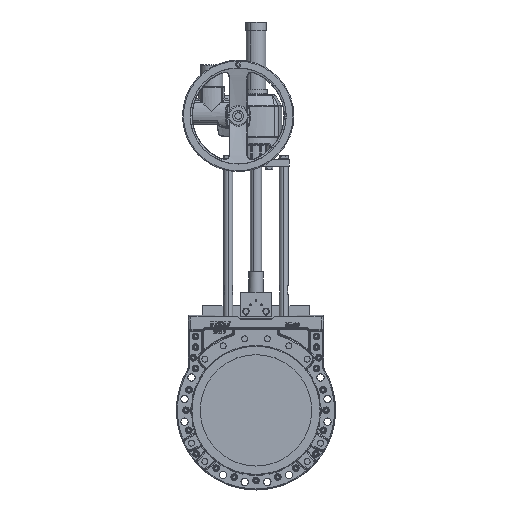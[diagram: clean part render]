
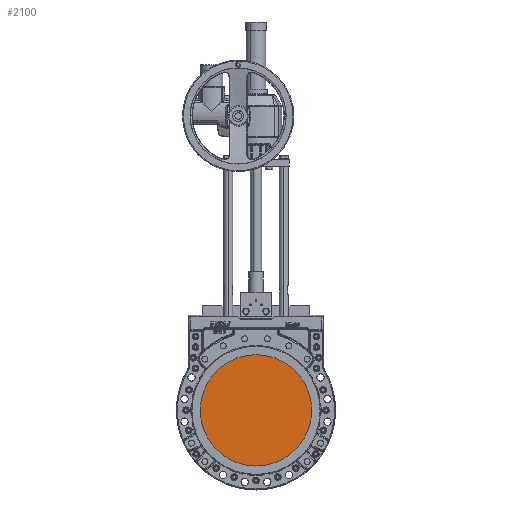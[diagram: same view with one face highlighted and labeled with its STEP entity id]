
A CAD part, top view. The second image highlights one B-rep face of the part: STEP entity #2100.
In plain terms, the highlighted planar face has unit normal (0, 0, 1).
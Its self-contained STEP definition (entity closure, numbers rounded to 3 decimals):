
#2100 = ADVANCED_FACE ( 'NONE', ( #59063 ), #28945, .T. ) ;
#4861 = AXIS2_PLACEMENT_3D ( 'NONE', #125377, #30617, #141259 ) ;
#24273 = EDGE_LOOP ( 'NONE', ( #34265, #127747 ) ) ;
#26848 = CARTESIAN_POINT ( 'NONE',  ( 0., 0., -0.25 ) ) ;
#26975 = AXIS2_PLACEMENT_3D ( 'NONE', #127379, #32605, #143257 ) ;
#28945 = PLANE ( 'NONE',  #183273 ) ;
#30617 = DIRECTION ( 'NONE',  ( 0., 0., 1. ) ) ;
#32605 = DIRECTION ( 'NONE',  ( 0., 0., 1. ) ) ;
#34265 = ORIENTED_EDGE ( 'NONE', *, *, #84263, .T. ) ;
#44808 = DIRECTION ( 'NONE',  ( 1., 0., 0. ) ) ;
#59063 = FACE_OUTER_BOUND ( 'NONE', #24273, .T. ) ;
#70967 = VERTEX_POINT ( 'NONE', #198817 ) ;
#84263 = EDGE_CURVE ( 'NONE', #70967, #124855, #85774, .T. ) ;
#85774 = CIRCLE ( 'NONE', #26975, 250. ) ;
#103638 = CIRCLE ( 'NONE', #4861, 250. ) ;
#124855 = VERTEX_POINT ( 'NONE', #169438 ) ;
#125377 = CARTESIAN_POINT ( 'NONE',  ( 0., 0., -0.25 ) ) ;
#127379 = CARTESIAN_POINT ( 'NONE',  ( 0., 0., -0.25 ) ) ;
#127747 = ORIENTED_EDGE ( 'NONE', *, *, #200491, .T. ) ;
#139566 = DIRECTION ( 'NONE',  ( 0., 0., 1. ) ) ;
#141259 = DIRECTION ( 'NONE',  ( 1., 0., 0. ) ) ;
#143257 = DIRECTION ( 'NONE',  ( 1., 0., 0. ) ) ;
#169438 = CARTESIAN_POINT ( 'NONE',  ( 250., 0., -0.25 ) ) ;
#183273 = AXIS2_PLACEMENT_3D ( 'NONE', #26848, #139566, #44808 ) ;
#198817 = CARTESIAN_POINT ( 'NONE',  ( -250., 0., -0.25 ) ) ;
#200491 = EDGE_CURVE ( 'NONE', #124855, #70967, #103638, .T. ) ;
